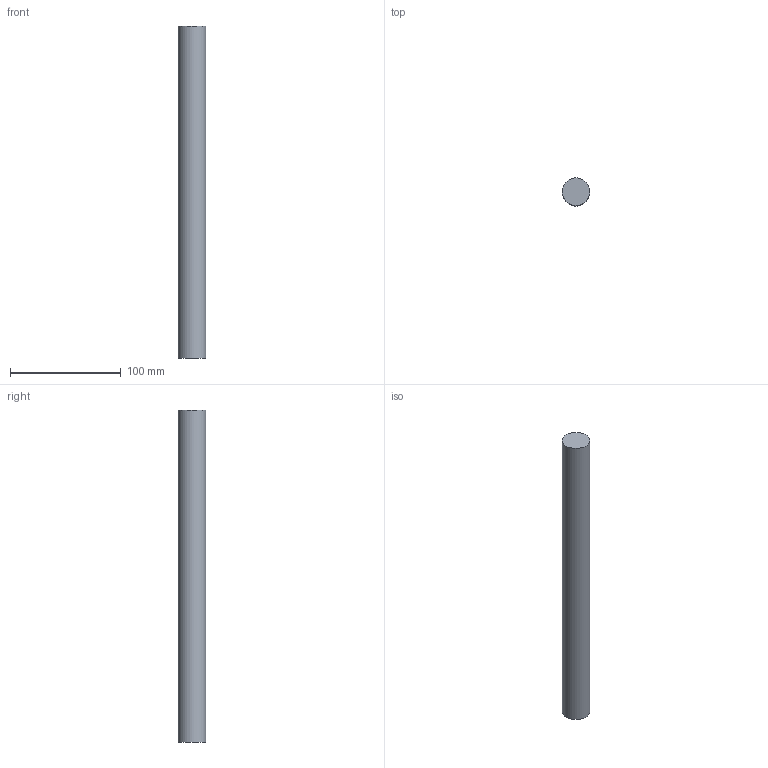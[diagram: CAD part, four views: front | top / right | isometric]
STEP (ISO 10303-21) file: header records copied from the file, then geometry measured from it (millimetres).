
FILE_DESCRIPTION(/* description */ (''),/* implementation_level */ '2;1');
FILE_NAME(/* name */ 'Linear Shaft - Solid - 25mm - Cut To Size.step',/* time_stamp */ '2024-07-15T10:48:01+03:00',/* author */ (''),/* organization */ (''),/* preprocessor_version */ 'ST-DEVELOPER v20',/* originating_system */ 'Autodesk Translation Framework v13.14.0.145',/* authorisation */ '');
FILE_SCHEMA (('AUTOMOTIVE_DESIGN { 1 0 10303 214 3 1 1 }'));
Length unit declared in the file: millimetre
Products named in the file (1): Linear Shaft - Solid - 25mm - Cut To Size
Bounding box: 25 x 25 x 300 mm (x, y, z)
Volume: 147262.2 mm3; surface area: 24543.7 mm2
Topology: 1 solids, 1 shells, 3 faces, 3 edges, 2 vertices
Faces by surface type: plane 2, cylinder 1
Full cylindrical faces by diameter (mm): 25 x1
Entity records: 92 total; most frequent: DIRECTION 13, CARTESIAN_POINT 9, ORIENTED_EDGE 6, AXIS2_PLACEMENT_3D 6, FACE_OUTER_BOUND 3, EDGE_LOOP 3, EDGE_CURVE 3, ADVANCED_FACE 3
